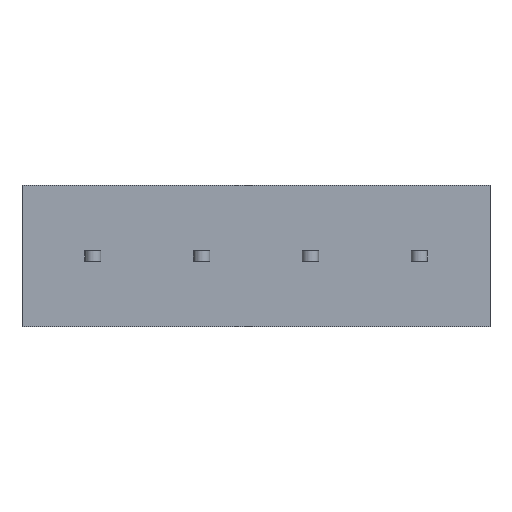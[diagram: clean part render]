
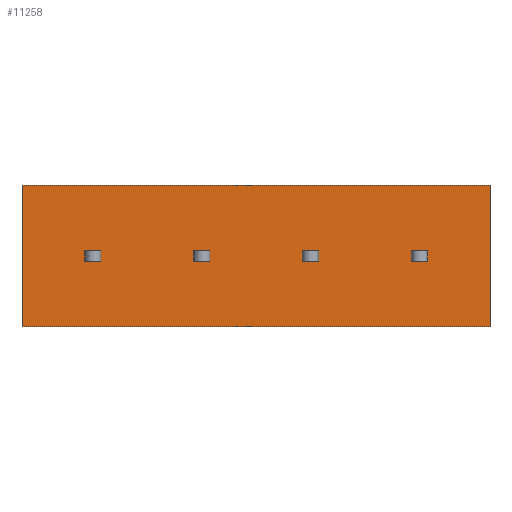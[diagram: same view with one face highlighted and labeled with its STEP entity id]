
A CAD part, front view. The second image highlights one B-rep face of the part: STEP entity #11258.
In plain terms, the highlighted planar face has unit normal (0, -1, 0).
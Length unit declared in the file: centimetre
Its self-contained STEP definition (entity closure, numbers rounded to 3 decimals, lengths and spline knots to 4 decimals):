
#682=VECTOR('',#12132,1.);
#685=VECTOR('',#12138,1.);
#689=VECTOR('',#12147,1.);
#691=VECTOR('',#12150,1.);
#1099=VECTOR('',#12703,1.);
#1186=VECTOR('',#12921,1.);
#1190=VECTOR('',#12926,1.);
#1192=VECTOR('',#12931,1.);
#1195=VECTOR('',#12939,1.);
#1300=VECTOR('',#13187,1.);
#1304=VECTOR('',#13192,1.);
#1306=VECTOR('',#13197,1.);
#1309=VECTOR('',#13205,1.);
#1414=VECTOR('',#13453,1.);
#1418=VECTOR('',#13458,1.);
#1420=VECTOR('',#13463,1.);
#1423=VECTOR('',#13471,1.);
#1478=VECTOR('',#13560,1.);
#1486=VECTOR('',#13569,1.);
#1487=VECTOR('',#13570,1.);
#1976=LINE('',#14401,#682);
#1979=LINE('',#14410,#685);
#1983=LINE('',#14420,#689);
#1985=LINE('',#14424,#691);
#2393=LINE('',#15937,#1099);
#2480=LINE('',#16239,#1186);
#2484=LINE('',#16248,#1190);
#2486=LINE('',#16254,#1192);
#2489=LINE('',#16262,#1195);
#2594=LINE('',#16600,#1300);
#2598=LINE('',#16609,#1304);
#2600=LINE('',#16615,#1306);
#2603=LINE('',#16623,#1309);
#2708=LINE('',#16961,#1414);
#2712=LINE('',#16970,#1418);
#2714=LINE('',#16976,#1420);
#2717=LINE('',#16984,#1423);
#2772=LINE('',#17097,#1478);
#2780=LINE('',#17114,#1486);
#2781=LINE('',#17115,#1487);
#3285=VERTEX_POINT('',#14402);
#3286=VERTEX_POINT('',#14403);
#3289=VERTEX_POINT('',#14411);
#3292=VERTEX_POINT('',#14421);
#3629=VERTEX_POINT('',#15935);
#3631=VERTEX_POINT('',#15938);
#3724=VERTEX_POINT('',#16240);
#3725=VERTEX_POINT('',#16241);
#3728=VERTEX_POINT('',#16249);
#3730=VERTEX_POINT('',#16255);
#3831=VERTEX_POINT('',#16601);
#3832=VERTEX_POINT('',#16602);
#3835=VERTEX_POINT('',#16610);
#3837=VERTEX_POINT('',#16616);
#3938=VERTEX_POINT('',#16962);
#3939=VERTEX_POINT('',#16963);
#3942=VERTEX_POINT('',#16971);
#3944=VERTEX_POINT('',#16977);
#3974=VERTEX_POINT('',#17098);
#3975=VERTEX_POINT('',#17099);
#4485=EDGE_CURVE('',#3285,#3286,#1976,.T.);
#4489=EDGE_CURVE('',#3286,#3289,#1979,.T.);
#4494=EDGE_CURVE('',#3289,#3292,#1983,.T.);
#4496=EDGE_CURVE('',#3292,#3285,#1985,.T.);
#5010=EDGE_CURVE('',#3631,#3629,#2393,.T.);
#5140=EDGE_CURVE('',#3724,#3725,#2480,.T.);
#5144=EDGE_CURVE('',#3728,#3724,#2484,.T.);
#5147=EDGE_CURVE('',#3725,#3730,#2486,.T.);
#5151=EDGE_CURVE('',#3730,#3728,#2489,.T.);
#5299=EDGE_CURVE('',#3831,#3832,#2594,.T.);
#5303=EDGE_CURVE('',#3835,#3831,#2598,.T.);
#5306=EDGE_CURVE('',#3832,#3837,#2600,.T.);
#5310=EDGE_CURVE('',#3837,#3835,#2603,.T.);
#5458=EDGE_CURVE('',#3938,#3939,#2708,.T.);
#5462=EDGE_CURVE('',#3942,#3938,#2712,.T.);
#5465=EDGE_CURVE('',#3939,#3944,#2714,.T.);
#5469=EDGE_CURVE('',#3944,#3942,#2717,.T.);
#5526=EDGE_CURVE('',#3974,#3975,#2772,.T.);
#5534=EDGE_CURVE('',#3975,#3631,#2780,.T.);
#5535=EDGE_CURVE('',#3974,#3629,#2781,.T.);
#8306=ORIENTED_EDGE('',*,*,#4494,.F.);
#8307=ORIENTED_EDGE('',*,*,#4489,.F.);
#8308=ORIENTED_EDGE('',*,*,#4485,.F.);
#8309=ORIENTED_EDGE('',*,*,#4496,.F.);
#8310=ORIENTED_EDGE('',*,*,#5144,.T.);
#8311=ORIENTED_EDGE('',*,*,#5140,.T.);
#8312=ORIENTED_EDGE('',*,*,#5147,.T.);
#8313=ORIENTED_EDGE('',*,*,#5151,.T.);
#8314=ORIENTED_EDGE('',*,*,#5303,.T.);
#8315=ORIENTED_EDGE('',*,*,#5299,.T.);
#8316=ORIENTED_EDGE('',*,*,#5306,.T.);
#8317=ORIENTED_EDGE('',*,*,#5310,.T.);
#8318=ORIENTED_EDGE('',*,*,#5462,.T.);
#8319=ORIENTED_EDGE('',*,*,#5458,.T.);
#8320=ORIENTED_EDGE('',*,*,#5465,.T.);
#8321=ORIENTED_EDGE('',*,*,#5469,.T.);
#8322=ORIENTED_EDGE('',*,*,#5534,.T.);
#8323=ORIENTED_EDGE('',*,*,#5010,.T.);
#8324=ORIENTED_EDGE('',*,*,#5535,.F.);
#8325=ORIENTED_EDGE('',*,*,#5526,.T.);
#9910=EDGE_LOOP('',(#8306,#8307,#8308,#8309));
#9911=EDGE_LOOP('',(#8310,#8311,#8312,#8313));
#9912=EDGE_LOOP('',(#8314,#8315,#8316,#8317));
#9913=EDGE_LOOP('',(#8318,#8319,#8320,#8321));
#9914=EDGE_LOOP('',(#8322,#8323,#8324,#8325));
#10606=FACE_BOUND('',#9910,.T.);
#10607=FACE_BOUND('',#9911,.T.);
#10608=FACE_BOUND('',#9912,.T.);
#10609=FACE_BOUND('',#9913,.T.);
#10610=FACE_BOUND('',#9914,.T.);
#11258=ADVANCED_FACE('',(#10606,#10607,#10608,#10609,#10610),#11794,.T.);
#11794=PLANE('',#19200);
#12132=DIRECTION('',(1.,0.,0.));
#12138=DIRECTION('',(0.,0.,1.));
#12147=DIRECTION('',(-1.,0.,0.));
#12150=DIRECTION('',(0.,0.,-1.));
#12703=DIRECTION('',(0.,0.,1.));
#12921=DIRECTION('',(0.,0.,-1.));
#12926=DIRECTION('',(1.,0.,0.));
#12931=DIRECTION('',(-1.,0.,0.));
#12939=DIRECTION('',(0.,0.,1.));
#13187=DIRECTION('',(0.,0.,-1.));
#13192=DIRECTION('',(1.,0.,0.));
#13197=DIRECTION('',(-1.,0.,0.));
#13205=DIRECTION('',(0.,0.,1.));
#13453=DIRECTION('',(0.,0.,-1.));
#13458=DIRECTION('',(1.,0.,0.));
#13463=DIRECTION('',(-1.,0.,0.));
#13471=DIRECTION('',(0.,0.,1.));
#13560=DIRECTION('',(0.,0.,-1.));
#13568=DIRECTION('',(0.,-1.,0.));
#13569=DIRECTION('',(1.,0.,0.));
#13570=DIRECTION('',(1.,0.,0.));
#14401=CARTESIAN_POINT('',(-0.63,0.,-0.05));
#14402=CARTESIAN_POINT('',(-0.495,0.,-0.05));
#14403=CARTESIAN_POINT('',(-0.345,0.,-0.05));
#14410=CARTESIAN_POINT('',(-0.345,0.,0.));
#14411=CARTESIAN_POINT('',(-0.345,0.,0.05));
#14420=CARTESIAN_POINT('',(-0.63,0.,0.05));
#14421=CARTESIAN_POINT('',(-0.495,0.,0.05));
#14424=CARTESIAN_POINT('',(-0.495,0.,0.));
#15935=CARTESIAN_POINT('',(3.23,0.,0.65));
#15937=CARTESIAN_POINT('',(3.23,0.,0.65));
#15938=CARTESIAN_POINT('',(3.23,0.,-0.65));
#16239=CARTESIAN_POINT('',(2.655,0.,0.));
#16240=CARTESIAN_POINT('',(2.655,0.,0.05));
#16241=CARTESIAN_POINT('',(2.655,0.,-0.05));
#16248=CARTESIAN_POINT('',(1.29,0.,0.05));
#16249=CARTESIAN_POINT('',(2.505,0.,0.05));
#16254=CARTESIAN_POINT('',(1.29,0.,-0.05));
#16255=CARTESIAN_POINT('',(2.505,0.,-0.05));
#16262=CARTESIAN_POINT('',(2.505,0.,0.));
#16600=CARTESIAN_POINT('',(1.655,0.,0.));
#16601=CARTESIAN_POINT('',(1.655,0.,0.05));
#16602=CARTESIAN_POINT('',(1.655,0.,-0.05));
#16609=CARTESIAN_POINT('',(0.79,0.,0.05));
#16610=CARTESIAN_POINT('',(1.505,0.,0.05));
#16615=CARTESIAN_POINT('',(0.79,0.,-0.05));
#16616=CARTESIAN_POINT('',(1.505,0.,-0.05));
#16623=CARTESIAN_POINT('',(1.505,0.,0.));
#16961=CARTESIAN_POINT('',(0.655,0.,0.));
#16962=CARTESIAN_POINT('',(0.655,0.,0.05));
#16963=CARTESIAN_POINT('',(0.655,0.,-0.05));
#16970=CARTESIAN_POINT('',(0.29,0.,0.05));
#16971=CARTESIAN_POINT('',(0.505,0.,0.05));
#16976=CARTESIAN_POINT('',(0.29,0.,-0.05));
#16977=CARTESIAN_POINT('',(0.505,0.,-0.05));
#16984=CARTESIAN_POINT('',(0.505,0.,0.));
#17097=CARTESIAN_POINT('',(-1.07,0.,0.65));
#17098=CARTESIAN_POINT('',(-1.07,0.,0.65));
#17099=CARTESIAN_POINT('',(-1.07,0.,-0.65));
#17113=CARTESIAN_POINT('',(-1.07,0.,0.));
#17114=CARTESIAN_POINT('',(-1.07,0.,-0.65));
#17115=CARTESIAN_POINT('',(-1.07,0.,0.65));
#19200=AXIS2_PLACEMENT_3D('',#17113,#13568,$);
